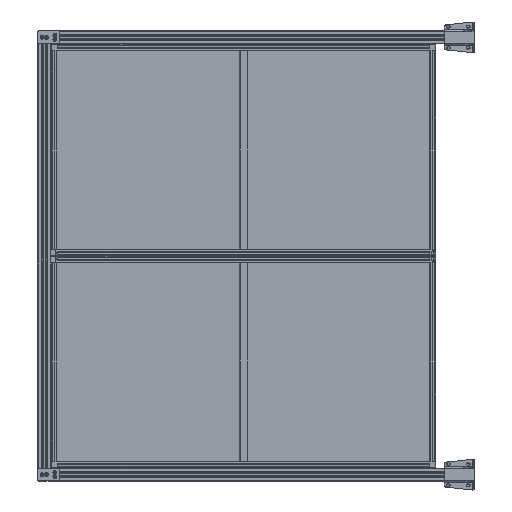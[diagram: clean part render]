
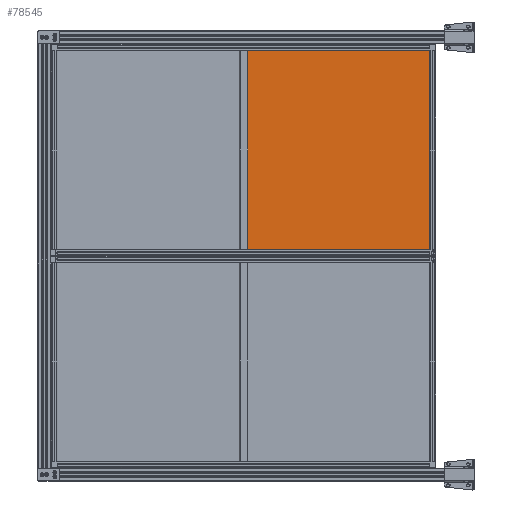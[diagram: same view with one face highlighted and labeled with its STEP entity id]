
A CAD part, top view. The second image highlights one B-rep face of the part: STEP entity #78545.
In plain terms, the highlighted planar face has unit normal (0, 0, 1).
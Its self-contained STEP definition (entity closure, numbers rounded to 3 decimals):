
#6316=FACE_OUTER_BOUND('',#10885,.T.);
#10885=EDGE_LOOP('',(#51544,#51545,#51546,#51547));
#15743=LINE('',#115807,#23739);
#15747=LINE('',#115815,#23743);
#15750=LINE('',#115821,#23746);
#15753=LINE('',#115826,#23749);
#23739=VECTOR('',#91373,10.);
#23743=VECTOR('',#91379,10.);
#23746=VECTOR('',#91384,10.);
#23749=VECTOR('',#91389,10.);
#31735=VERTEX_POINT('',#115805);
#31736=VERTEX_POINT('',#115806);
#31739=VERTEX_POINT('',#115814);
#31741=VERTEX_POINT('',#115820);
#39389=EDGE_CURVE('',#31735,#31736,#15743,.T.);
#39393=EDGE_CURVE('',#31736,#31739,#15747,.T.);
#39396=EDGE_CURVE('',#31739,#31741,#15750,.T.);
#39399=EDGE_CURVE('',#31741,#31735,#15753,.T.);
#51544=ORIENTED_EDGE('',*,*,#39389,.F.);
#51545=ORIENTED_EDGE('',*,*,#39399,.F.);
#51546=ORIENTED_EDGE('',*,*,#39396,.F.);
#51547=ORIENTED_EDGE('',*,*,#39393,.F.);
#75810=PLANE('',#83155);
#78545=ADVANCED_FACE('',(#6316),#75810,.T.);
#83155=AXIS2_PLACEMENT_3D('',#115828,#91391,#91392);
#91373=DIRECTION('',(0.,-1.,0.));
#91379=DIRECTION('',(-1.,0.,0.));
#91384=DIRECTION('',(0.,1.,0.));
#91389=DIRECTION('',(1.,0.,0.));
#91391=DIRECTION('center_axis',(0.,0.,
1.));
#91392=DIRECTION('ref_axis',(-1.,0.,0.));
#115805=CARTESIAN_POINT('',(768.565,731.256,-433.919));
#115806=CARTESIAN_POINT('',(768.565,-223.744,-433.919));
#115807=CARTESIAN_POINT('',(768.565,731.256,-433.919));
#115814=CARTESIAN_POINT('',(-106.435,-223.744,-433.919));
#115815=CARTESIAN_POINT('',(768.565,-223.744,-433.919));
#115820=CARTESIAN_POINT('',(-106.435,731.256,-433.919));
#115821=CARTESIAN_POINT('',(-106.435,-223.744,-433.919));
#115826=CARTESIAN_POINT('',(-106.435,731.256,-433.919));
#115828=CARTESIAN_POINT('Origin',(331.065,253.756,-433.919));
